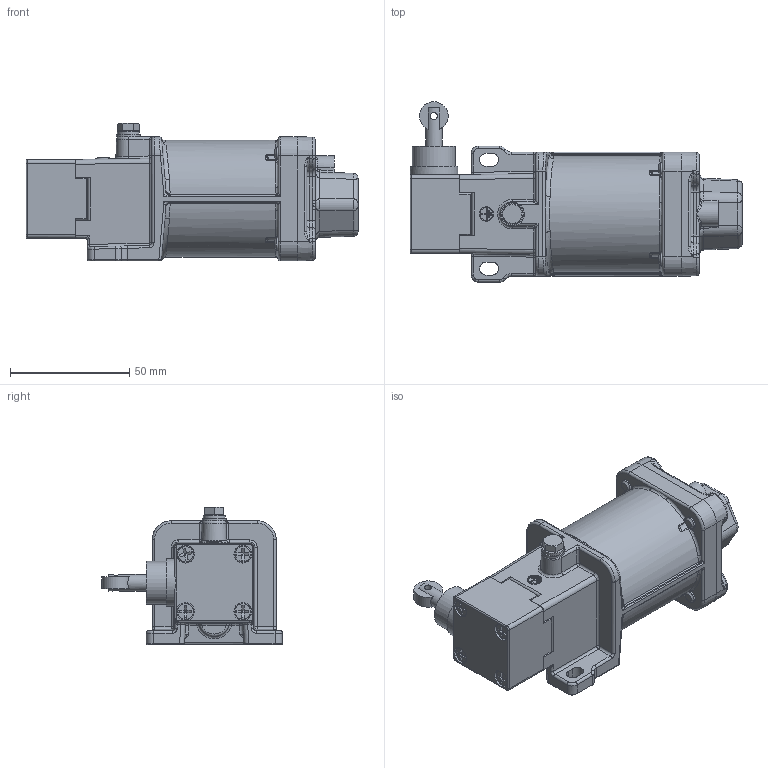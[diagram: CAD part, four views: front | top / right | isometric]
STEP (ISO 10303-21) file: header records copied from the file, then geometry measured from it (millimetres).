
FILE_DESCRIPTION((''),'2;1');
FILE_NAME('C:\Users\A.V.Nesterov\Desktop\111\3D\ТЗ\ТЗ 104224\ДВГ-КВ-E22К1_М20х1,5_3D.stp','2024-04-22T14:27:39',('A.V.Nesterov'),(''),'Autodesk Inventor 2012','Autodesk Inventor 2012','');
FILE_SCHEMA(('AUTOMOTIVE_DESIGN { 1 0 10303 214 1 1 1 1 }'));
Length unit declared in the file: millimetre
Products named in the file (1): ДВГ-КВ-E22К1_М20х1,5_3D
Bounding box: 139.15 x 75.6 x 57.7 mm (x, y, z)
Surface area: 63671.9 mm2 (no closed solid volume)
Topology: 0 solids, 19 shells, 1400 faces, 3286 edges, 1927 vertices
Faces by surface type: plane 546, cylinder 380, bspline 304, torus 108, cone 46, sphere 16
Full cylindrical faces by diameter (mm): 1.76 x1, 2.51 x1, 3 x1, 3.2 x5, 3.7 x1, 3.76 x1, 4 x7, 4.1 x1, 4.3 x7, 4.567 x1, 4.988 x8, 5 x4, 5.2 x4, 5.3 x1, 5.4 x5, 6 x1, 6.5 x1, 6.7 x1, 7 x5, 7.5 x4, 8.4 x1, 8.5 x4, 9.5 x4, 10 x1, 11.5 x1, 12 x1, 13.02 x1, 16 x1, 18 x1, 18.4 x1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
Entity records: 58497 total; most frequent: CARTESIAN_POINT 27493, ORIENTED_EDGE 6106, DIRECTION 5732, EDGE_CURVE 3053, AXIS2_PLACEMENT_3D 2165, VERTEX_POINT 1884, EDGE_LOOP 1633, VECTOR 1402
